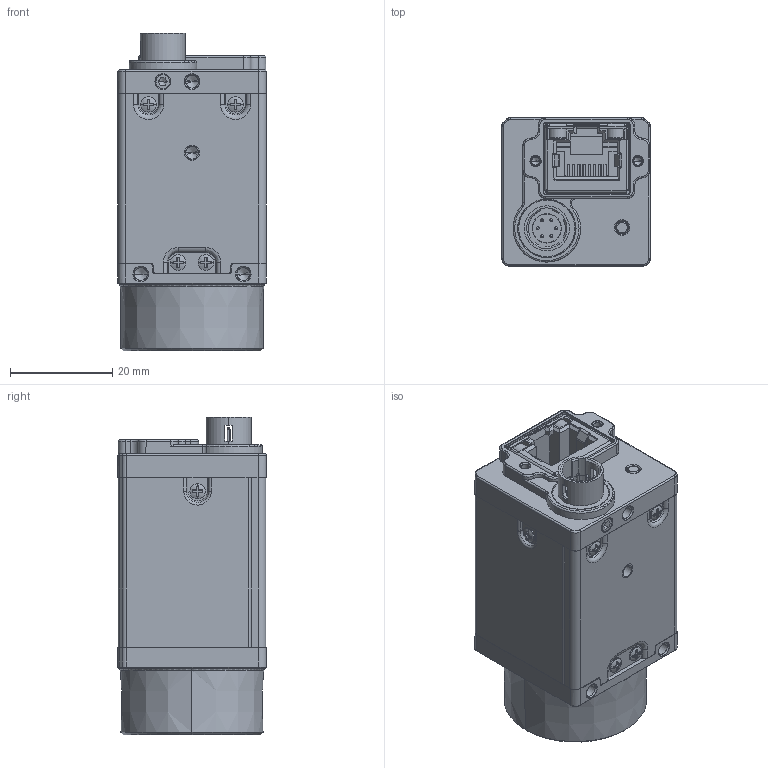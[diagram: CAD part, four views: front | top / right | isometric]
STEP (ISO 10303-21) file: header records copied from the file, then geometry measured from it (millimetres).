
FILE_DESCRIPTION((''),'2;1');
FILE_NAME('CU013-80GMC','2022-10-22T12:09:14',('zhangfeixiang8'),(''),'CREO PARAMETRIC BY PTC INC, 2020044','CREO PARAMETRIC BY PTC INC, 2020044','');
FILE_SCHEMA(('CONFIG_CONTROL_DESIGN','SHAPE_APPEARANCE_LAYERS_GROUPS'));
Products named in the file (1): CU013-80GMC
Bounding box: 29 x 29 x 62.13 mm (x, y, z)
Volume: 34289.3 mm3; surface area: 24956.9 mm2
Topology: 1 solids, 53 shells, 2808 faces, 7907 edges, 5153 vertices
Faces by surface type: plane 1247, cylinder 719, cone 361, bspline 261, torus 180, sphere 30, extrusion 10
Entity records: 131908 total; most frequent: CARTESIAN_POINT 44671, ORIENTED_EDGE 15414, DIRECTION 13744, EDGE_CURVE 7863, VERTEX_POINT 5153, AXIS2_PLACEMENT_3D 4955, VECTOR 3834, LINE 3824
